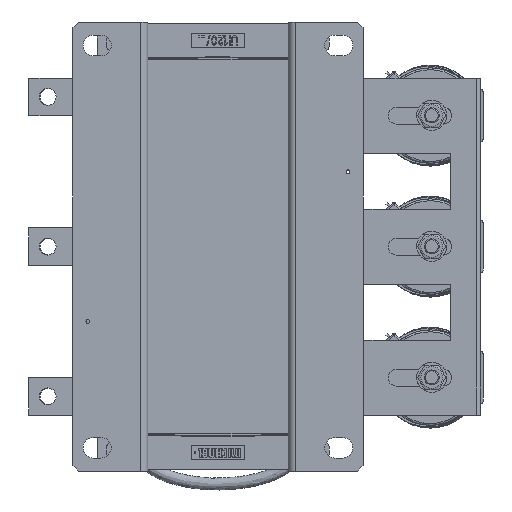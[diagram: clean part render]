
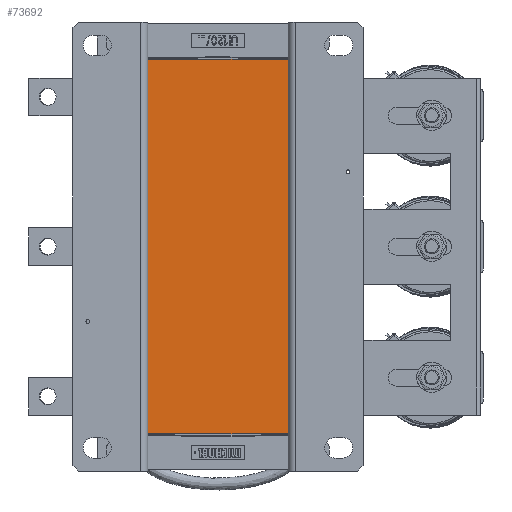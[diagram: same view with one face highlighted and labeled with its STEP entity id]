
A CAD part, front view. The second image highlights one B-rep face of the part: STEP entity #73692.
In plain terms, the highlighted planar face has unit normal (0, -1, 0).
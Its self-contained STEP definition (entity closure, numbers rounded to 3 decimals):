
#4055=PLANE('',#79498);
#8102=FACE_OUTER_BOUND('',#12323,.T.);
#12323=EDGE_LOOP('',(#64766,#64767,#64768,#64769));
#19083=LINE('',#122667,#26048);
#19154=LINE('',#122859,#26119);
#19376=LINE('',#123477,#26341);
#19381=LINE('',#123485,#26346);
#26048=VECTOR('',#96963,10.);
#26119=VECTOR('',#97154,10.);
#26341=VECTOR('',#97802,10.);
#26346=VECTOR('',#97813,10.);
#34824=VERTEX_POINT('',#122650);
#34831=VERTEX_POINT('',#122665);
#34883=VERTEX_POINT('',#122840);
#34892=VERTEX_POINT('',#122857);
#44626=EDGE_CURVE('',#34831,#34824,#19083,.T.);
#44720=EDGE_CURVE('',#34892,#34883,#19154,.T.);
#45025=EDGE_CURVE('',#34892,#34824,#19376,.T.);
#45030=EDGE_CURVE('',#34831,#34883,#19381,.T.);
#64766=ORIENTED_EDGE('',*,*,#45030,.T.);
#64767=ORIENTED_EDGE('',*,*,#44720,.F.);
#64768=ORIENTED_EDGE('',*,*,#45025,.T.);
#64769=ORIENTED_EDGE('',*,*,#44626,.F.);
#73692=ADVANCED_FACE('',(#8102),#4055,.T.);
#79498=AXIS2_PLACEMENT_3D('',#123516,#97853,#97854);
#96963=DIRECTION('',(0.,0.,-1.));
#97154=DIRECTION('',(0.,0.,1.));
#97802=DIRECTION('',(1.,0.,0.));
#97813=DIRECTION('',(-1.,0.,0.));
#97853=DIRECTION('center_axis',(0.,-1.,0.));
#97854=DIRECTION('ref_axis',(0.,0.,
1.));
#122650=CARTESIAN_POINT('',(37.5,-95.8,-100.));
#122665=CARTESIAN_POINT('',(37.5,-95.8,100.));
#122667=CARTESIAN_POINT('',(37.5,-95.8,100.));
#122840=CARTESIAN_POINT('',(-37.5,-95.8,100.));
#122857=CARTESIAN_POINT('',(-37.5,-95.8,-100.));
#122859=CARTESIAN_POINT('',(-37.5,-95.8,100.));
#123477=CARTESIAN_POINT('',(0.,-95.8,-100.));
#123485=CARTESIAN_POINT('',(0.,-95.8,100.));
#123516=CARTESIAN_POINT('Origin',(0.,-95.8,-100.));
